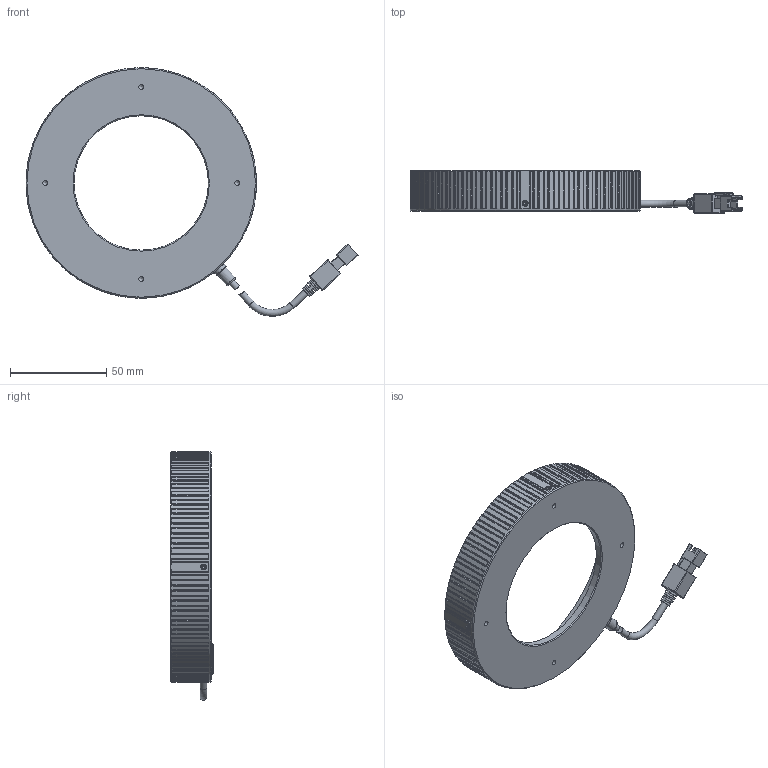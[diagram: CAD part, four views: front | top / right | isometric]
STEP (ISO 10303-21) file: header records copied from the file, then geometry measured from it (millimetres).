
FILE_DESCRIPTION (( 'STEP AP203' ), '1' );
FILE_NAME ('OPT-URI12030-UV-V1.0尨砩芞.STEP', '2025-02-15T06:55:55', ( '' ), ( '' ), 'SwSTEP 2.0', 'SolidWorks 2016', '' );
FILE_SCHEMA (( 'CONFIG_CONTROL_DESIGN' ));
Length unit declared in the file: millimetre
Products named in the file (1): OPT-URI12030-UV-V1.0尨砩芞
Bounding box: 172.91 x 21.9 x 129.41 mm (x, y, z)
Volume: 83247.2 mm3; surface area: 37799.1 mm2
Topology: 4 solids, 4 shells, 913 faces, 2502 edges, 1616 vertices
Faces by surface type: plane 416, cylinder 371, cone 97, torus 21, sphere 4, bspline 4
Full cylindrical faces by diameter (mm): 1.1 x4, 1.4 x4, 1.6 x4, 2 x4, 2.2 x4, 2.5 x4, 3.5 x3, 5 x1, 6 x1, 7 x1, 70 x1, 71.8 x1, 72.129 x1, 112 x1, 116 x1, 120 x1
Entity records: 29972 total; most frequent: CARTESIAN_POINT 7762, ORIENTED_EDGE 4802, DIRECTION 4350, EDGE_CURVE 2401, AXIS2_PLACEMENT_3D 1618, VERTEX_POINT 1586, LINE 1114, VECTOR 1114
